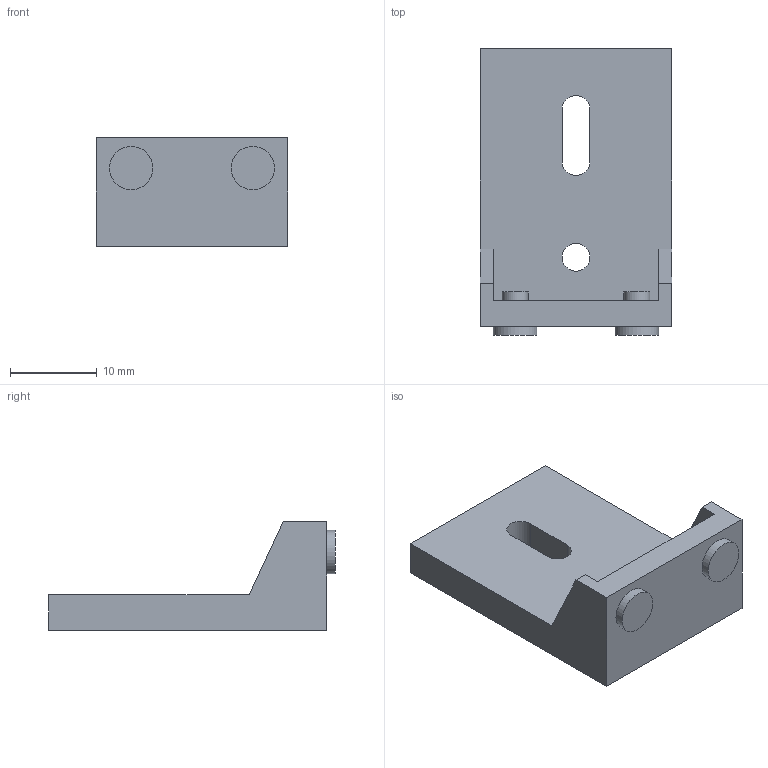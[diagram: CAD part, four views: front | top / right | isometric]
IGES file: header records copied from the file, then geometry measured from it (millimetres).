
Start section: Data from Parasolid IGES Translator 20.0.26, Copyright(c) 2006 Siemens P LM Software. All Rights Reserved.
Global section: file name: 9303883.igs; native system: By Siemens PLM Incorporated; preprocessor: XPlus GENERIC/IGES 20.0.26; author: Noname; organization: Noname; date: 20210825.125257; units: millimetre
Bounding box: 22 x 33 x 12.5 mm (x, y, z)
Surface area: 2506.1 mm2 (no closed solid volume)
Topology: 0 solids, 0 shells, 25 faces, 114 edges, 106 vertices
Faces by surface type: extrusion 18, revolution 7
